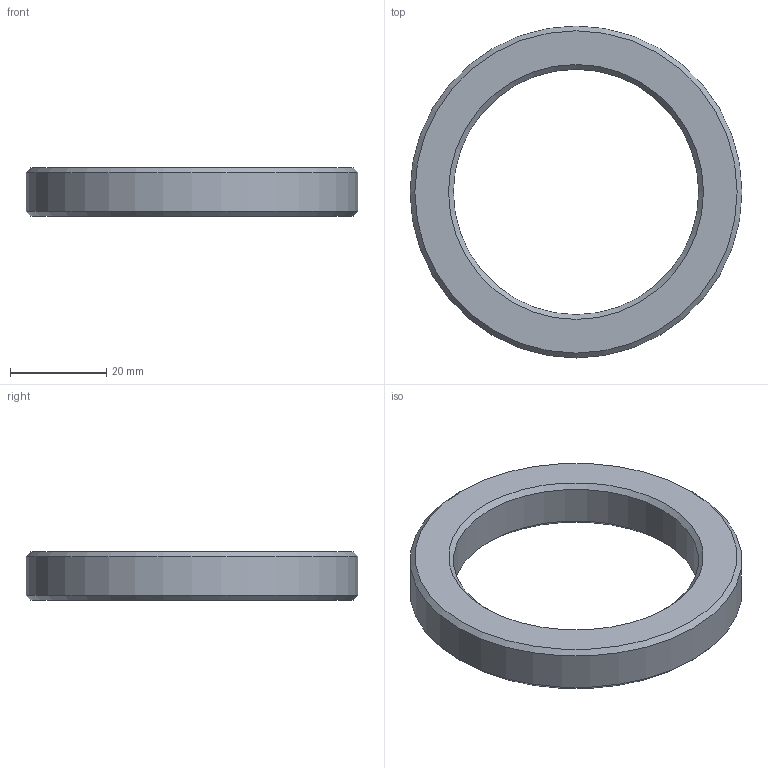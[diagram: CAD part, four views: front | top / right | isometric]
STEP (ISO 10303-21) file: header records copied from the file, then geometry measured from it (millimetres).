
FILE_DESCRIPTION(/* description */ (''),/* implementation_level */ '2;1');
FILE_NAME(/* name */ 'C:\Users\jbart\OneDrive\Plocha\Nová složka\3D modely - stp\Distanční kroužek II.stp',/* time_stamp */ '2025-05-15T16:47:28+02:00',/* author */ ('jbart'),/* organization */ (''),/* preprocessor_version */ 'ST-DEVELOPER v18.1',/* originating_system */ 'Autodesk Inventor 2022',/* authorisation */ '');
FILE_SCHEMA (('AUTOMOTIVE_DESIGN { 1 0 10303 214 3 1 1 }'));
Length unit declared in the file: millimetre
Products named in the file (1): Distanční kroužek II
Bounding box: 69 x 69 x 10 mm (x, y, z)
Volume: 16587.6 mm3; surface area: 6721.2 mm2
Topology: 1 solids, 1 shells, 8 faces, 16 edges, 10 vertices
Faces by surface type: cone 4, cylinder 2, plane 2
Full cylindrical faces by diameter (mm): 51 x1, 69 x1
Entity records: 257 total; most frequent: DIRECTION 44, CARTESIAN_POINT 35, ORIENTED_EDGE 32, AXIS2_PLACEMENT_3D 19, EDGE_CURVE 16, EDGE_LOOP 10, CIRCLE 10, VERTEX_POINT 10
